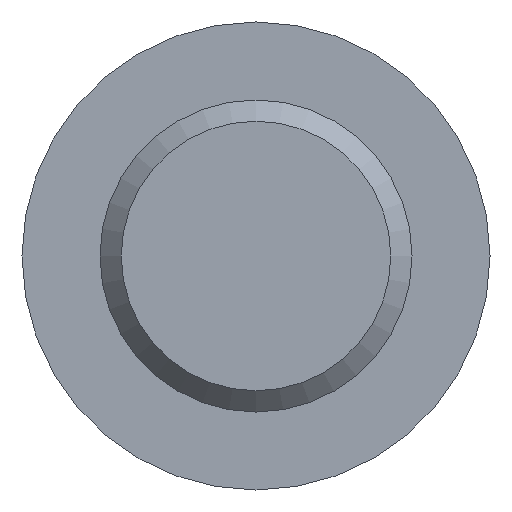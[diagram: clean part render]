
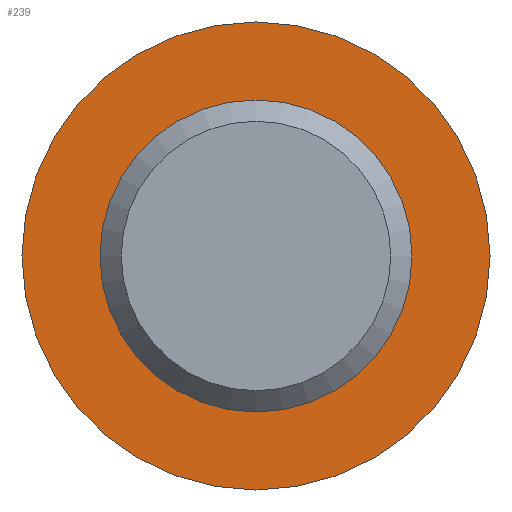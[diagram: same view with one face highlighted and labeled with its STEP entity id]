
A CAD part, front view. The second image highlights one B-rep face of the part: STEP entity #239.
In plain terms, the highlighted planar face has unit normal (0, -1, 0).
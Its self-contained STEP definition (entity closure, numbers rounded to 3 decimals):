
#23=FACE_BOUND('',#64,.T.);
#33=PLANE('',#282);
#48=FACE_OUTER_BOUND('',#63,.T.);
#63=EDGE_LOOP('',(#214));
#64=EDGE_LOOP('',(#215));
#100=CIRCLE('',#265,18.);
#106=CIRCLE('',#275,27.);
#109=VERTEX_POINT('',#356);
#120=VERTEX_POINT('',#384);
#133=EDGE_CURVE('',#109,#109,#100,.T.);
#146=EDGE_CURVE('',#120,#120,#106,.T.);
#214=ORIENTED_EDGE('',*,*,#146,.T.);
#215=ORIENTED_EDGE('',*,*,#133,.T.);
#239=ADVANCED_FACE('',(#48,#23),#33,.F.);
#265=AXIS2_PLACEMENT_3D('',#358,#296,#297);
#275=AXIS2_PLACEMENT_3D('',#386,#323,#324);
#282=AXIS2_PLACEMENT_3D('',#427,#343,#344);
#296=DIRECTION('center_axis',(0.,1.,0.));
#297=DIRECTION('ref_axis',(-1.,0.,0.));
#323=DIRECTION('center_axis',(0.,-1.,0.));
#324=DIRECTION('ref_axis',(1.,0.,0.));
#343=DIRECTION('center_axis',(0.,1.,0.));
#344=DIRECTION('ref_axis',(0.,0.,1.));
#356=CARTESIAN_POINT('',(18.,0.,0.));
#358=CARTESIAN_POINT('Origin',(0.,0.,0.));
#384=CARTESIAN_POINT('',(-27.,0.,0.));
#386=CARTESIAN_POINT('Origin',(0.,0.,0.));
#427=CARTESIAN_POINT('Origin',(0.,0.,0.));
